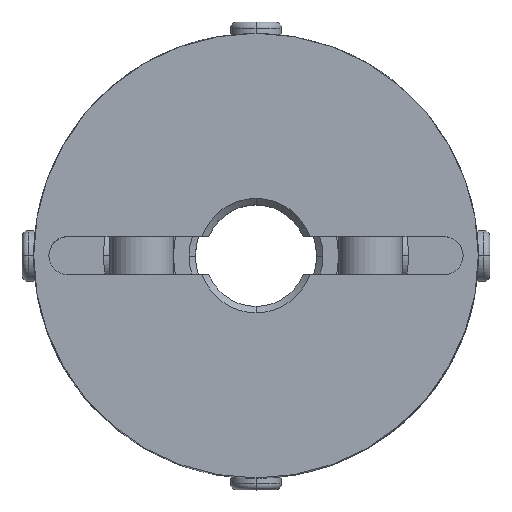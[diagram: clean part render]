
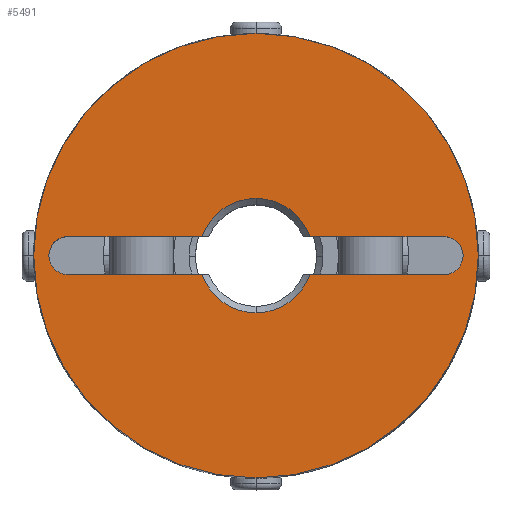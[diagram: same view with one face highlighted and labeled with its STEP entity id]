
A CAD part, top view. The second image highlights one B-rep face of the part: STEP entity #5491.
In plain terms, the highlighted planar face has unit normal (0, 0, 1).
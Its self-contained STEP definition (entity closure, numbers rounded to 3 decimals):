
#981=CARTESIAN_POINT('',(0.,17.5,17.5));
#982=VERTEX_POINT('',#981);
#989=CARTESIAN_POINT('',(0.,-17.5,17.5));
#990=VERTEX_POINT('',#989);
#991=CARTESIAN_POINT('',(0.0,0.0,17.5));
#992=DIRECTION('',(0.0,0.0,-1.0));
#993=DIRECTION('',(0.0,-1.0,0.0));
#994=AXIS2_PLACEMENT_3D('',#991,#992,#993);
#995=CIRCLE('',#994,17.5);
#996=EDGE_CURVE('',#982,#990,#995,.T.);
#1311=CARTESIAN_POINT('',(15.861,1.061,17.5));
#1312=VERTEX_POINT('',#1311);
#1328=CARTESIAN_POINT('',(14.8,-1.5,17.5));
#1329=VERTEX_POINT('',#1328);
#1336=CARTESIAN_POINT('',(14.8,0.,17.5));
#1337=DIRECTION('',(0.0,0.0,1.0));
#1338=DIRECTION('',(0.707,-0.707,0.0));
#1339=AXIS2_PLACEMENT_3D('',#1336,#1337,#1338);
#1340=CIRCLE('',#1339,1.5);
#1341=EDGE_CURVE('',#1329,#1312,#1340,.T.);
#1353=CARTESIAN_POINT('',(-15.861,-1.061,17.5));
#1354=VERTEX_POINT('',#1353);
#1370=CARTESIAN_POINT('',(-14.8,1.5,17.5));
#1371=VERTEX_POINT('',#1370);
#1378=CARTESIAN_POINT('',(-14.8,0.,17.5));
#1379=DIRECTION('',(0.0,0.0,1.0));
#1380=DIRECTION('',(-0.707,0.707,0.0));
#1381=AXIS2_PLACEMENT_3D('',#1378,#1379,#1380);
#1382=CIRCLE('',#1381,1.5);
#1383=EDGE_CURVE('',#1371,#1354,#1382,.T.);
#4396=CARTESIAN_POINT('',(0.,4.5,17.5));
#4397=VERTEX_POINT('',#4396);
#4405=CARTESIAN_POINT('',(4.243,1.5,17.5));
#4406=VERTEX_POINT('',#4405);
#4420=CARTESIAN_POINT('',(0.,0.,17.5));
#4421=DIRECTION('',(0.0,0.0,1.0));
#4422=DIRECTION('',(0.0,1.0,0.0));
#4423=AXIS2_PLACEMENT_3D('',#4420,#4421,#4422);
#4424=CIRCLE('',#4423,4.5);
#4425=EDGE_CURVE('',#4406,#4397,#4424,.T.);
#4435=CARTESIAN_POINT('',(0.,-4.5,17.5));
#4436=VERTEX_POINT('',#4435);
#4452=CARTESIAN_POINT('',(-4.243,-1.5,17.5));
#4453=VERTEX_POINT('',#4452);
#4467=CARTESIAN_POINT('',(0.,0.,17.5));
#4468=DIRECTION('',(0.0,0.0,1.0));
#4469=DIRECTION('',(0.0,-1.0,0.0));
#4470=AXIS2_PLACEMENT_3D('',#4467,#4468,#4469);
#4471=CIRCLE('',#4470,4.5);
#4472=EDGE_CURVE('',#4453,#4436,#4471,.T.);
#5207=CARTESIAN_POINT('',(14.8,1.5,17.5));
#5208=VERTEX_POINT('',#5207);
#5215=CARTESIAN_POINT('',(4.243,1.5,17.5));
#5216=DIRECTION('',(1.0,0.0,0.0));
#5217=VECTOR('',#5216,10.557);
#5218=LINE('',#5215,#5217);
#5219=EDGE_CURVE('',#4406,#5208,#5218,.T.);
#5376=CARTESIAN_POINT('',(4.243,-1.5,17.5));
#5377=VERTEX_POINT('',#5376);
#5391=CARTESIAN_POINT('',(14.8,-1.5,17.5));
#5392=DIRECTION('',(-1.0,0.0,0.0));
#5393=VECTOR('',#5392,10.557);
#5394=LINE('',#5391,#5393);
#5395=EDGE_CURVE('',#1329,#5377,#5394,.T.);
#5418=CARTESIAN_POINT('',(0.,0.,17.5));
#5419=DIRECTION('',(0.0,0.0,1.0));
#5420=DIRECTION('',(0.0,-1.0,0.0));
#5421=AXIS2_PLACEMENT_3D('',#5418,#5419,#5420);
#5422=CIRCLE('',#5421,4.5);
#5423=EDGE_CURVE('',#4436,#5377,#5422,.T.);
#5430=CARTESIAN_POINT('',(0.,-1.591,17.5));
#5431=DIRECTION('',(0.0,0.0,1.0));
#5432=DIRECTION('',(0.0,-1.0,0.0));
#5433=AXIS2_PLACEMENT_3D('',#5430,#5431,#5432);
#5434=PLANE('',#5433);
#5435=CARTESIAN_POINT('',(0.0,0.0,17.5));
#5436=DIRECTION('',(0.0,0.0,-1.0));
#5437=DIRECTION('',(0.0,-1.0,0.0));
#5438=AXIS2_PLACEMENT_3D('',#5435,#5436,#5437);
#5439=CIRCLE('',#5438,17.5);
#5440=EDGE_CURVE('',#990,#982,#5439,.T.);
#5441=ORIENTED_EDGE('',*,*,#5440,.F.);
#5442=ORIENTED_EDGE('',*,*,#996,.F.);
#5443=EDGE_LOOP('',(#5441,#5442));
#5444=FACE_OUTER_BOUND('',#5443,.T.);
#5445=ORIENTED_EDGE('',*,*,#4472,.F.);
#5446=CARTESIAN_POINT('',(-14.8,-1.5,17.5));
#5447=VERTEX_POINT('',#5446);
#5448=CARTESIAN_POINT('',(-4.243,-1.5,17.5));
#5449=DIRECTION('',(-1.0,0.0,0.0));
#5450=VECTOR('',#5449,10.557);
#5451=LINE('',#5448,#5450);
#5452=EDGE_CURVE('',#4453,#5447,#5451,.T.);
#5453=ORIENTED_EDGE('',*,*,#5452,.T.);
#5454=CARTESIAN_POINT('',(-14.8,0.,17.5));
#5455=DIRECTION('',(0.0,0.0,1.0));
#5456=DIRECTION('',(-0.707,0.707,0.0));
#5457=AXIS2_PLACEMENT_3D('',#5454,#5455,#5456);
#5458=CIRCLE('',#5457,1.5);
#5459=EDGE_CURVE('',#1354,#5447,#5458,.T.);
#5460=ORIENTED_EDGE('',*,*,#5459,.F.);
#5461=ORIENTED_EDGE('',*,*,#1383,.F.);
#5462=CARTESIAN_POINT('',(-4.243,1.5,17.5));
#5463=VERTEX_POINT('',#5462);
#5464=CARTESIAN_POINT('',(-14.8,1.5,17.5));
#5465=DIRECTION('',(1.0,0.0,0.0));
#5466=VECTOR('',#5465,10.557);
#5467=LINE('',#5464,#5466);
#5468=EDGE_CURVE('',#1371,#5463,#5467,.T.);
#5469=ORIENTED_EDGE('',*,*,#5468,.T.);
#5470=CARTESIAN_POINT('',(0.,0.,17.5));
#5471=DIRECTION('',(0.0,0.0,1.0));
#5472=DIRECTION('',(0.0,1.0,0.0));
#5473=AXIS2_PLACEMENT_3D('',#5470,#5471,#5472);
#5474=CIRCLE('',#5473,4.5);
#5475=EDGE_CURVE('',#4397,#5463,#5474,.T.);
#5476=ORIENTED_EDGE('',*,*,#5475,.F.);
#5477=ORIENTED_EDGE('',*,*,#4425,.F.);
#5478=ORIENTED_EDGE('',*,*,#5219,.T.);
#5479=CARTESIAN_POINT('',(14.8,0.,17.5));
#5480=DIRECTION('',(0.0,0.0,1.0));
#5481=DIRECTION('',(0.707,-0.707,0.0));
#5482=AXIS2_PLACEMENT_3D('',#5479,#5480,#5481);
#5483=CIRCLE('',#5482,1.5);
#5484=EDGE_CURVE('',#1312,#5208,#5483,.T.);
#5485=ORIENTED_EDGE('',*,*,#5484,.F.);
#5486=ORIENTED_EDGE('',*,*,#1341,.F.);
#5487=ORIENTED_EDGE('',*,*,#5395,.T.);
#5488=ORIENTED_EDGE('',*,*,#5423,.F.);
#5489=EDGE_LOOP('',(#5445,#5453,#5460,#5461,#5469,#5476,#5477,#5478,#5485,#5486,#5487,#5488));
#5490=FACE_BOUND('',#5489,.T.);
#5491=ADVANCED_FACE('',(#5444,#5490),#5434,.T.);
